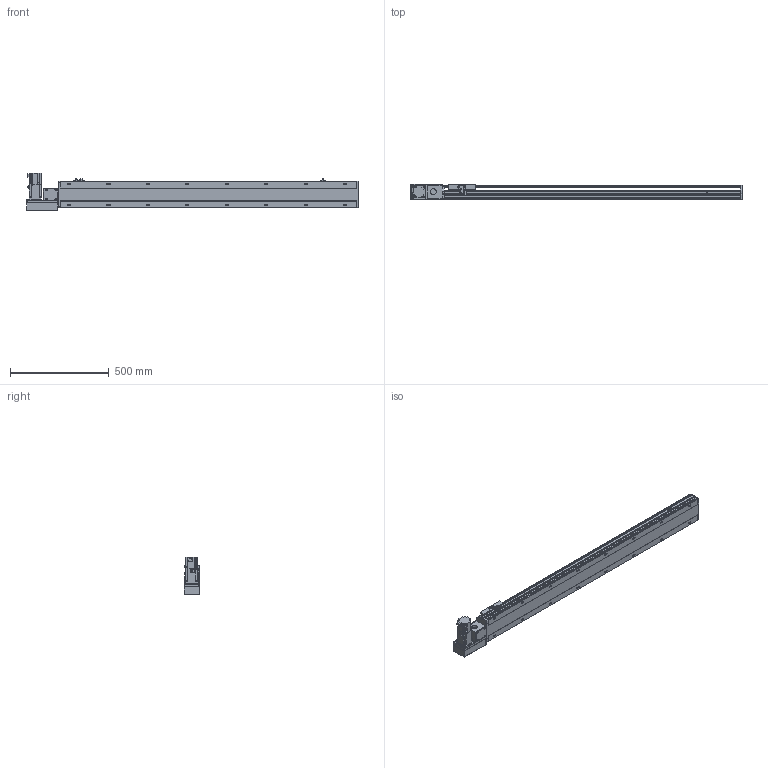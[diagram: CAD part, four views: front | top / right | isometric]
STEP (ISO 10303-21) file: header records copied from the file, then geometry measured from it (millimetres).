
FILE_DESCRIPTION( ( 'STEP AP214' ), '1' );
FILE_NAME( 'x:/temp/worker_27/temp/exporttempdir_6708_299_TSvW2/format_0/PBS140-P40-S1250-L-T40-C1-N(0).stp', '2022-06-06T01:01:57', ( 'License CC BY-ND 4.0' ), ( 'CADENAS' ), ' ', 'PARTsolutions', ' ' );
FILE_SCHEMA( ( 'AUTOMOTIVE_DESIGN { 1 0 10303 214 1 1 1 1 }' ) );
Length unit declared in the file: millimetre
Products named in the file (7): PBS140-P40-S1250-L-T40-C1-N(0); _PBS140-S1250()_body; _PBS140T-L_motors; _T40-p1; _PBS140_sliser; _PBS140_plant; _PBS140_sensor
Assembly tree (8 placements, depth 2):
  PBS140-P40-S1250-L-T40-C1-N(0)
    _PBS140-S1250()_body
    _PBS140T-L_motors
    _T40-p1
    _PBS140_sliser
    _PBS140_plant
    _PBS140_sensor  x3
Bounding box: 1683 x 80.5 x 189.7 mm (x, y, z)
Volume: 7562307.8 mm3; surface area: 1312489.2 mm2
Topology: 8 solids, 8 shells, 1075 faces, 2836 edges, 1853 vertices
Faces by surface type: plane 692, cylinder 331, cone 42, sphere 8, torus 2
Full cylindrical faces by diameter (mm): 3.242 x4, 4 x2, 4.134 x4, 4.4 x8, 4.5 x2, 4.8 x4, 4.917 x24, 5.5 x7, 6 x2, 7 x18, 7.5 x8, 8 x12, 8.5 x4, 10.5 x16, 14 x1, 30 x2, 50 x2
Entity records: 39289 total; most frequent: CARTESIAN_POINT 6251, DIRECTION 5197, ORIENTED_EDGE 4912, EDGE_CURVE 2456, AXIS2_PLACEMENT_3D 1807, VERTEX_POINT 1701, LINE 1583, VECTOR 1583
